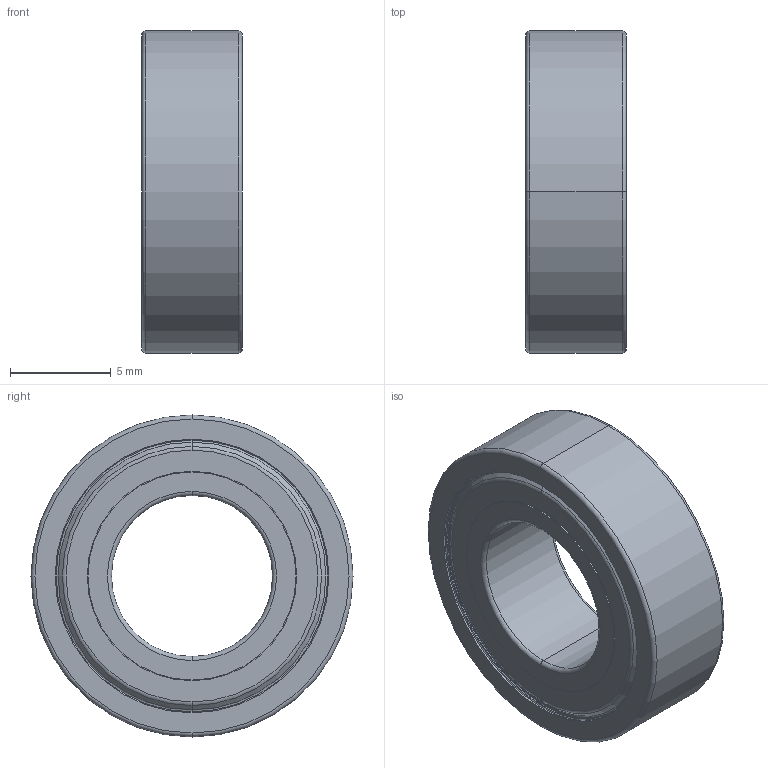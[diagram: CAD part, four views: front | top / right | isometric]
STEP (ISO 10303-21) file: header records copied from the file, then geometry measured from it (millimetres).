
FILE_DESCRIPTION((''),'2;1');
FILE_NAME('688ZZ-EA026','2025-12-19T16:39:27',('qinghui.yi'),(''),'CREO PARAMETRIC BY PTC INC, 2019164','CREO PARAMETRIC BY PTC INC, 2019164','');
FILE_SCHEMA(('CONFIG_CONTROL_DESIGN','SHAPE_APPEARANCE_LAYERS_GROUPS'));
Length unit declared in the file: millimetre
Products named in the file (1): 688ZZ-EA026
Bounding box: 5 x 16 x 16 mm (x, y, z)
Volume: 465.8 mm3; surface area: 1218.5 mm2
Topology: 2 solids, 2 shells, 88 faces, 178 edges, 104 vertices
Faces by surface type: torus 34, cylinder 24, cone 16, plane 14
Entity records: 2575 total; most frequent: DIRECTION 492, CARTESIAN_POINT 370, ORIENTED_EDGE 356, AXIS2_PLACEMENT_3D 226, COLOUR_RGB 196, EDGE_CURVE 178, CIRCLE 138, VERTEX_POINT 104
